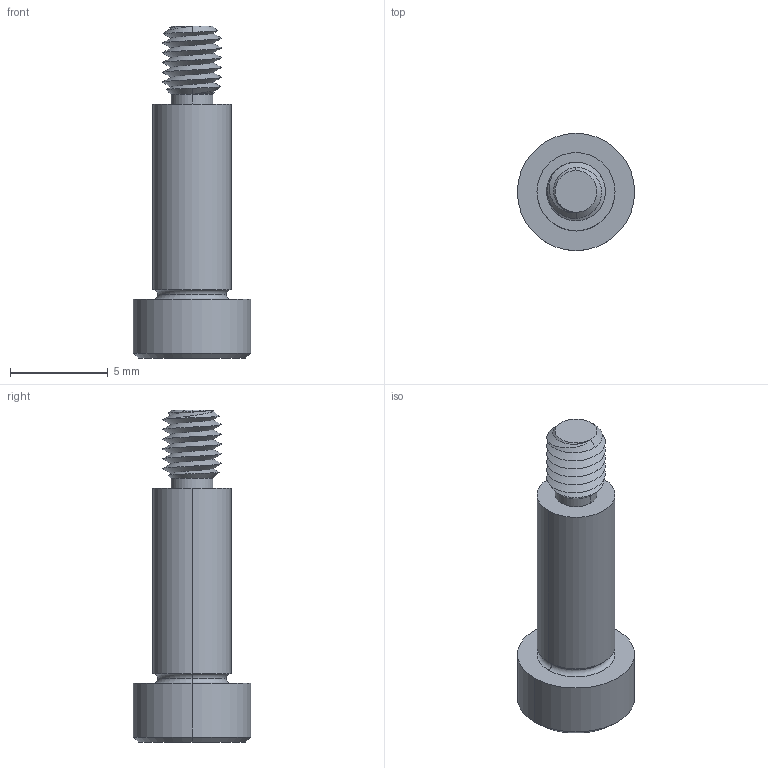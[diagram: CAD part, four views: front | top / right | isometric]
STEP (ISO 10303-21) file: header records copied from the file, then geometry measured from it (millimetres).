
FILE_DESCRIPTION (( 'STEP AP203' ), '1' );
FILE_NAME ('P0130.040-010-B2.step', '2021-11-09T21:03:17', ( '' ), ( '' ), 'SwSTEP 2.0', 'SolidWorks 2019', '' );
FILE_SCHEMA (( 'CONFIG_CONTROL_DESIGN' ));
Length unit declared in the file: millimetre
Products named in the file (1): P0130.040-010-B2
Bounding box: 6 x 6 x 17 mm (x, y, z)
Volume: 220.9 mm3; surface area: 310 mm2
Topology: 1 solids, 1 shells, 54 faces, 124 edges, 73 vertices
Faces by surface type: cylinder 18, plane 16, cone 14, torus 4, bspline 2
Entity records: 2218 total; most frequent: CARTESIAN_POINT 1016, ORIENTED_EDGE 244, DIRECTION 229, EDGE_CURVE 122, AXIS2_PLACEMENT_3D 93, VERTEX_POINT 73, EDGE_LOOP 57, ADVANCED_FACE 54
